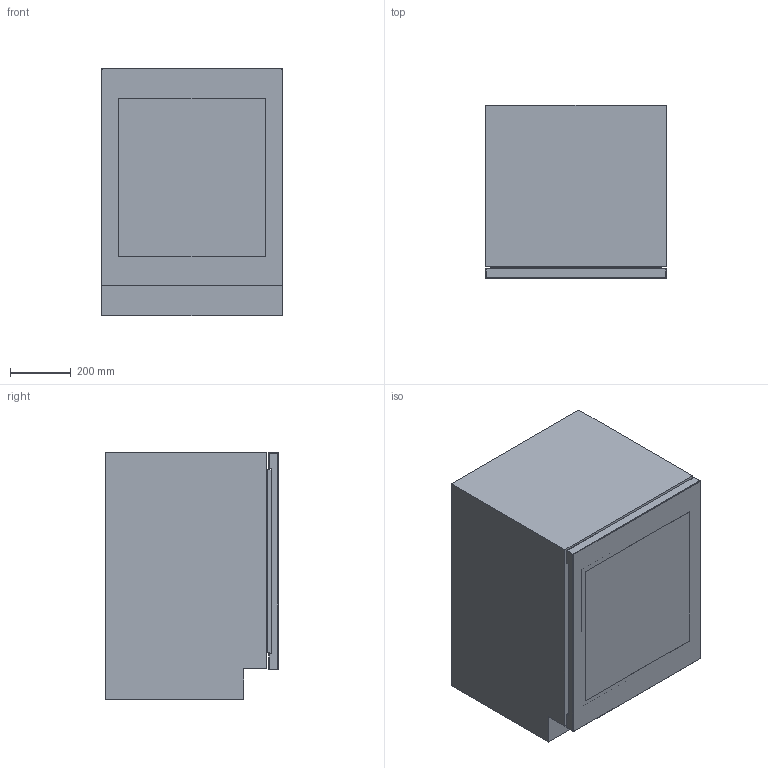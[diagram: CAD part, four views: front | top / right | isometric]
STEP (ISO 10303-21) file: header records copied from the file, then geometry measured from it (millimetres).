
FILE_DESCRIPTION(/* description */ (''),/* implementation_level */ '2;1');
FILE_NAME(/* name */ 'X5109300000-A',/* time_stamp */ '2022-12-06T09:25:04+01:00',/* author */ (''),/* organization */ (''),/* preprocessor_version */ 'ST-DEVELOPER v16.5',/* originating_system */ 'Rhino 7.24',/* authorisation */ '');
FILE_SCHEMA (('AUTOMOTIVE_DESIGN'));
Length unit declared in the file: millimetre
Products named in the file (1): Document
Bounding box: 597 x 571 x 816 mm (x, y, z)
Volume: 261033993.6 mm3; surface area: 5204752.8 mm2
Topology: 8 solids, 8 shells, 120 faces, 276 edges, 168 vertices
Faces by surface type: plane 74, cylinder 34, bspline 12
Entity records: 3561 total; most frequent: CARTESIAN_POINT 1542, ORIENTED_EDGE 544, EDGE_CURVE 272, B_SPLINE_CURVE_WITH_KNOTS 224, VERTEX_POINT 168, EDGE_LOOP 128, ADVANCED_FACE 120, FACE_OUTER_BOUND 120
